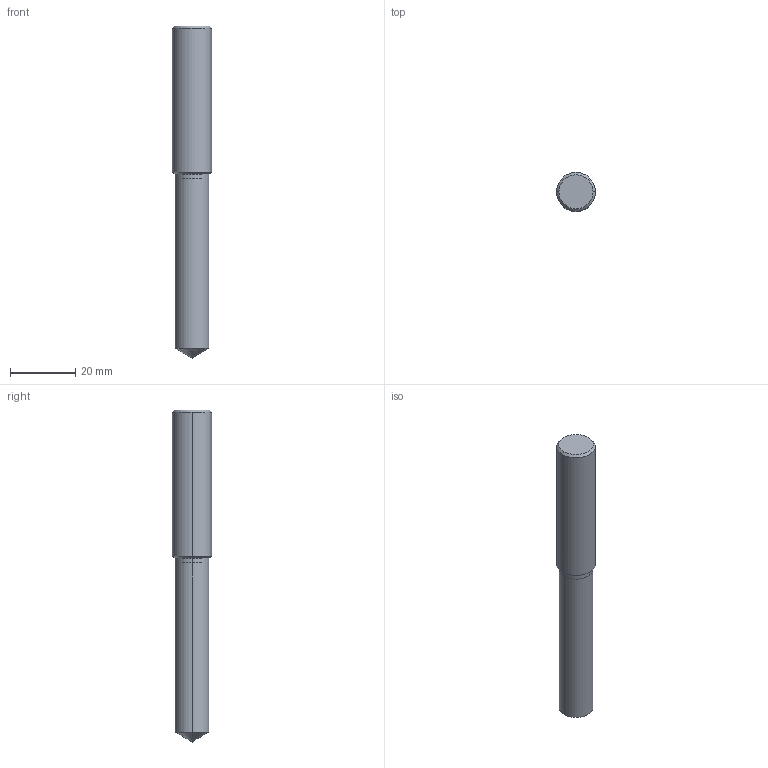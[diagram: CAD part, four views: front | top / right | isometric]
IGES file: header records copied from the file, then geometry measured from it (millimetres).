
Start section: 3D InterOp IGES (v. 2020 1.0.1), Spatial Corp. Copyright (c) 1999-2017.
Global section: file name: WZB10253_10.4.igs; native system: Spatial Corp.; preprocessor: 3D InterOp GENERIC/IGES 3.0; author: Noname; organization: Noname; date: 20210125.095800; units: metre
Bounding box: 12 x 12 x 102 mm (x, y, z)
Surface area: 3671.1 mm2 (no closed solid volume)
Topology: 0 solids, 0 shells, 14 faces, 54 edges, 52 vertices
Faces by surface type: revolution 12, extrusion 2
